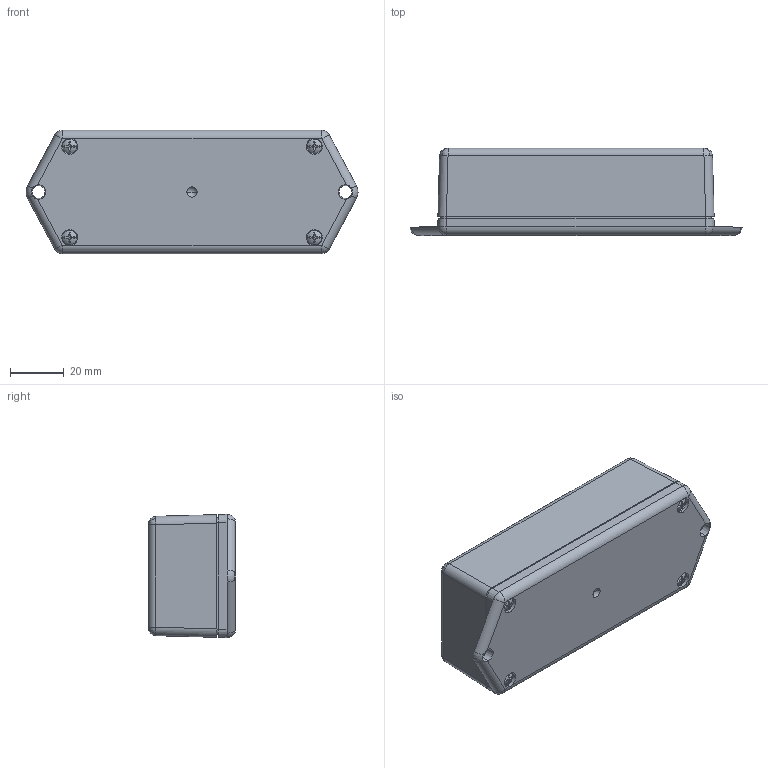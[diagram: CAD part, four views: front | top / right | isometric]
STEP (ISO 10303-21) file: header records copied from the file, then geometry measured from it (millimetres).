
FILE_DESCRIPTION (( 'STEP AP214' ), '1' );
FILE_NAME ('ID-1741FMB ASSEMBLY.STEP', '2010-07-20T19:30:25', ( '' ), ( '' ), 'SwSTEP 2.0', 'SolidWorks 2010', '' );
FILE_SCHEMA (( 'AUTOMOTIVE_DESIGN' ));
Length unit declared in the file: inch
Products named in the file (4): ID-1741FMB ASSEMBLY; SCREWS-HL5~8-BR; ID-1706B_ID-1706BFMB; TS-1741B_TS-1741BP
Assembly tree (6 placements, depth 2):
  ID-1741FMB ASSEMBLY
    TS-1741B_TS-1741BP
    SCREWS-HL5~8-BR  x4
    ID-1706B_ID-1706BFMB
Bounding box: 123.95 x 32.51 x 46.1 mm (x, y, z)
Volume: 34765.7 mm3; surface area: 40957.3 mm2
Topology: 6 solids, 6 shells, 546 faces, 1496 edges, 974 vertices
Faces by surface type: cylinder 254, plane 138, cone 96, bspline 36, sphere 12, torus 10
Entity records: 11215 total; most frequent: CARTESIAN_POINT 4003, ORIENTED_EDGE 1594, DIRECTION 1399, EDGE_CURVE 797, AXIS2_PLACEMENT_3D 547, VERTEX_POINT 512, EDGE_LOOP 327, LINE 305
